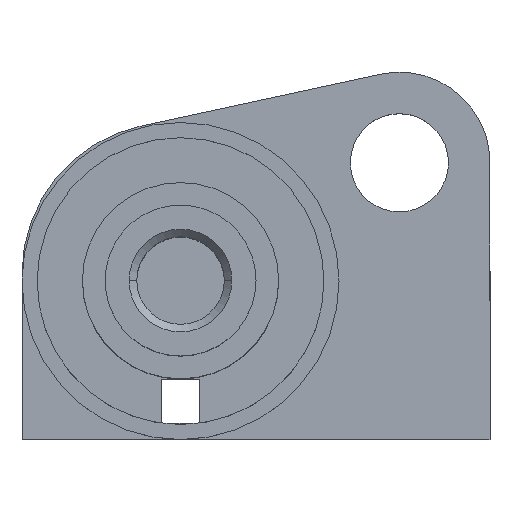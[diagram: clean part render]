
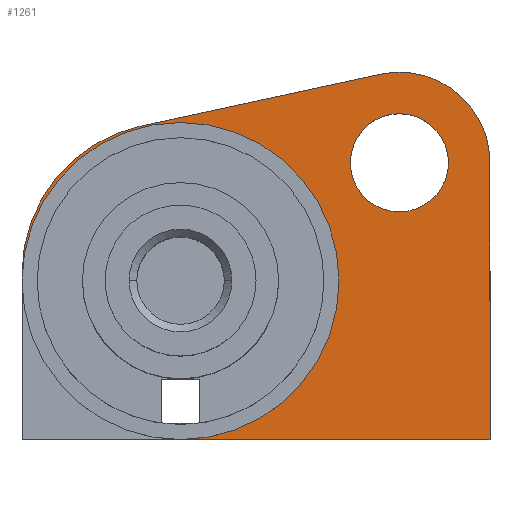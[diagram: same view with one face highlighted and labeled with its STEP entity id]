
A CAD part, top view. The second image highlights one B-rep face of the part: STEP entity #1261.
In plain terms, the highlighted planar face has unit normal (0, 0, 1).
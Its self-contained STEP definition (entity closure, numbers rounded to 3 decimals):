
#30 = AXIS2_PLACEMENT_3D ( 'NONE', #387, #171, #607 ) ;
#48 = DIRECTION ( 'NONE',  ( 0., 0., 1. ) ) ;
#72 = PLANE ( 'NONE',  #999 ) ;
#84 = DIRECTION ( 'NONE',  ( 0., 0., 1. ) ) ;
#101 = ORIENTED_EDGE ( 'NONE', *, *, #246, .F. ) ;
#119 = VERTEX_POINT ( 'NONE', #957 ) ;
#122 = ORIENTED_EDGE ( 'NONE', *, *, #173, .T. ) ;
#124 = VERTEX_POINT ( 'NONE', #818 ) ;
#127 = CIRCLE ( 'NONE', #1019, 3.25 ) ;
#138 = CARTESIAN_POINT ( 'NONE',  ( -25., -18.34, 2.5 ) ) ;
#147 = EDGE_LOOP ( 'NONE', ( #101, #1146 ) ) ;
#148 = VECTOR ( 'NONE', #388, 1000. ) ;
#155 = DIRECTION ( 'NONE',  ( 1., 0., 0. ) ) ;
#171 = DIRECTION ( 'NONE',  ( 0., 0., 1. ) ) ;
#172 = AXIS2_PLACEMENT_3D ( 'NONE', #627, #84, #1396 ) ;
#173 = EDGE_CURVE ( 'NONE', #438, #369, #294, .T. ) ;
#196 = CARTESIAN_POINT ( 'NONE',  ( 6., 0., 2.5 ) ) ;
#214 = DIRECTION ( 'NONE',  ( 1., 0., 0. ) ) ;
#230 = EDGE_CURVE ( 'NONE', #1260, #369, #644, .T. ) ;
#234 = DIRECTION ( 'NONE',  ( 1., 0., 0. ) ) ;
#246 = EDGE_CURVE ( 'NONE', #685, #717, #874, .T. ) ;
#251 = CARTESIAN_POINT ( 'NONE',  ( 0., 0., 2.5 ) ) ;
#253 = LINE ( 'NONE', #138, #463 ) ;
#257 = AXIS2_PLACEMENT_3D ( 'NONE', #723, #744, #214 ) ;
#294 = LINE ( 'NONE', #1286, #348 ) ;
#348 = VECTOR ( 'NONE', #1180, 1000. ) ;
#363 = DIRECTION ( 'NONE',  ( 0., 0., 1. ) ) ;
#364 = CARTESIAN_POINT ( 'NONE',  ( -15., -7.34, 2.5 ) ) ;
#369 = VERTEX_POINT ( 'NONE', #985 ) ;
#387 = CARTESIAN_POINT ( 'NONE',  ( -14.5, -7.84, 2.5 ) ) ;
#388 = DIRECTION ( 'NONE',  ( 0., -1., 0. ) ) ;
#396 = DIRECTION ( 'NONE',  ( 0., 0., 1. ) ) ;
#403 = AXIS2_PLACEMENT_3D ( 'NONE', #251, #48, #155 ) ;
#426 = CARTESIAN_POINT ( 'NONE',  ( 6., -18.34, 2.5 ) ) ;
#438 = VERTEX_POINT ( 'NONE', #1345 ) ;
#454 = DIRECTION ( 'NONE',  ( 1., 0., 0. ) ) ;
#463 = VECTOR ( 'NONE', #560, 1000. ) ;
#496 = CIRCLE ( 'NONE', #1303, 10. ) ;
#498 = EDGE_CURVE ( 'NONE', #124, #1359, #253, .T. ) ;
#506 = DIRECTION ( 'NONE',  ( 1., 0., 0. ) ) ;
#560 = DIRECTION ( 'NONE',  ( 1., 0., 0. ) ) ;
#563 = DIRECTION ( 'NONE',  ( 0., 0., 1. ) ) ;
#607 = DIRECTION ( 'NONE',  ( 1., 0., 0. ) ) ;
#618 = ORIENTED_EDGE ( 'NONE', *, *, #498, .T. ) ;
#627 = CARTESIAN_POINT ( 'NONE',  ( -14.5, -7.84, 2.5 ) ) ;
#629 = CARTESIAN_POINT ( 'NONE',  ( -17.116, 2.434, 2.5 ) ) ;
#644 = CIRCLE ( 'NONE', #30, 10.5 ) ;
#667 = CIRCLE ( 'NONE', #403, 6. ) ;
#673 = EDGE_CURVE ( 'NONE', #119, #1359, #1051, .T. ) ;
#682 = EDGE_CURVE ( 'NONE', #124, #1260, #781, .T. ) ;
#685 = VERTEX_POINT ( 'NONE', #932 ) ;
#707 = FACE_BOUND ( 'NONE', #147, .T. ) ;
#717 = VERTEX_POINT ( 'NONE', #964 ) ;
#723 = CARTESIAN_POINT ( 'NONE',  ( 0., 0., 2.5 ) ) ;
#744 = DIRECTION ( 'NONE',  ( 0., 0., 1. ) ) ;
#754 = EDGE_LOOP ( 'NONE', ( #122, #1015, #800, #618, #790, #1404, #1186, #1212 ) ) ;
#781 = CIRCLE ( 'NONE', #172, 10.5 ) ;
#789 = LINE ( 'NONE', #1253, #1365 ) ;
#790 = ORIENTED_EDGE ( 'NONE', *, *, #673, .F. ) ;
#800 = ORIENTED_EDGE ( 'NONE', *, *, #682, .F. ) ;
#818 = CARTESIAN_POINT ( 'NONE',  ( -14.5, -18.34, 2.5 ) ) ;
#874 = CIRCLE ( 'NONE', #257, 3.25 ) ;
#907 = CARTESIAN_POINT ( 'NONE',  ( -1.27, 5.864, 2.5 ) ) ;
#932 = CARTESIAN_POINT ( 'NONE',  ( 3.25, 0., 2.5 ) ) ;
#933 = EDGE_CURVE ( 'NONE', #119, #1098, #667, .T. ) ;
#956 = EDGE_CURVE ( 'NONE', #1098, #1324, #789, .T. ) ;
#957 = CARTESIAN_POINT ( 'NONE',  ( 6., 0., 2.5 ) ) ;
#964 = CARTESIAN_POINT ( 'NONE',  ( -3.25, 0., 2.5 ) ) ;
#985 = CARTESIAN_POINT ( 'NONE',  ( -25., -7.84, 2.5 ) ) ;
#999 = AXIS2_PLACEMENT_3D ( 'NONE', #1391, #396, #506 ) ;
#1012 = EDGE_CURVE ( 'NONE', #717, #685, #127, .T. ) ;
#1015 = ORIENTED_EDGE ( 'NONE', *, *, #230, .F. ) ;
#1019 = AXIS2_PLACEMENT_3D ( 'NONE', #1033, #363, #454 ) ;
#1033 = CARTESIAN_POINT ( 'NONE',  ( 0., 0., 2.5 ) ) ;
#1051 = LINE ( 'NONE', #196, #148 ) ;
#1052 = CARTESIAN_POINT ( 'NONE',  ( -4., -7.84, 2.5 ) ) ;
#1098 = VERTEX_POINT ( 'NONE', #907 ) ;
#1146 = ORIENTED_EDGE ( 'NONE', *, *, #1012, .F. ) ;
#1168 = EDGE_CURVE ( 'NONE', #1324, #438, #496, .T. ) ;
#1180 = DIRECTION ( 'NONE',  ( 0., -1., 0. ) ) ;
#1186 = ORIENTED_EDGE ( 'NONE', *, *, #956, .T. ) ;
#1212 = ORIENTED_EDGE ( 'NONE', *, *, #1168, .T. ) ;
#1253 = CARTESIAN_POINT ( 'NONE',  ( -1.27, 5.864, 2.5 ) ) ;
#1260 = VERTEX_POINT ( 'NONE', #1052 ) ;
#1261 = ADVANCED_FACE ( 'NONE', ( #707, #1382 ), #72, .T. ) ;
#1286 = CARTESIAN_POINT ( 'NONE',  ( -25., 0., 2.5 ) ) ;
#1303 = AXIS2_PLACEMENT_3D ( 'NONE', #364, #563, #234 ) ;
#1324 = VERTEX_POINT ( 'NONE', #629 ) ;
#1343 = DIRECTION ( 'NONE',  ( -0.977, -0.212, 0. ) ) ;
#1345 = CARTESIAN_POINT ( 'NONE',  ( -25., -7.34, 2.5 ) ) ;
#1359 = VERTEX_POINT ( 'NONE', #426 ) ;
#1365 = VECTOR ( 'NONE', #1343, 1000. ) ;
#1382 = FACE_OUTER_BOUND ( 'NONE', #754, .T. ) ;
#1391 = CARTESIAN_POINT ( 'NONE',  ( 0., 0., 2.5 ) ) ;
#1396 = DIRECTION ( 'NONE',  ( 1., 0., 0. ) ) ;
#1404 = ORIENTED_EDGE ( 'NONE', *, *, #933, .T. ) ;
